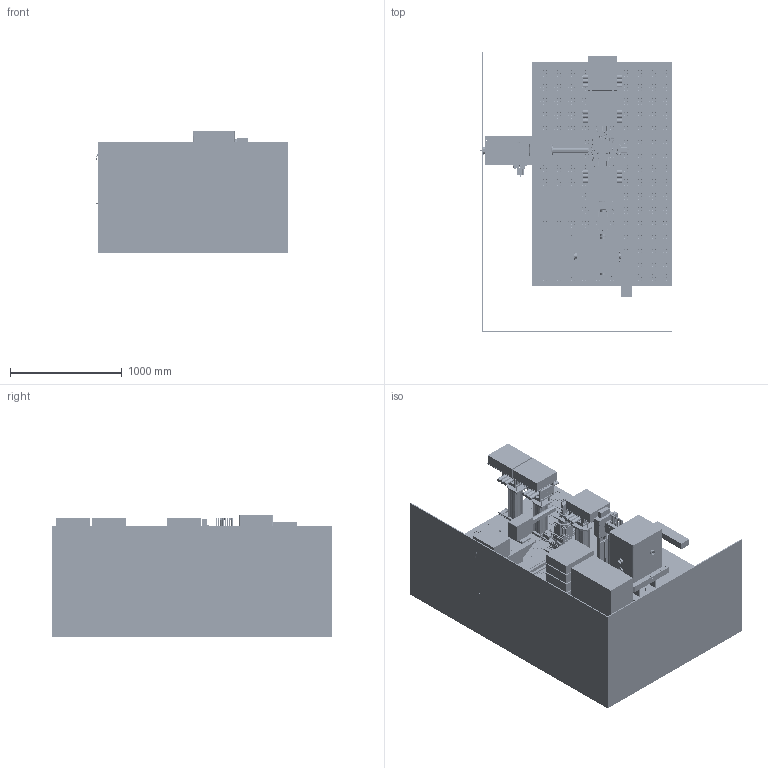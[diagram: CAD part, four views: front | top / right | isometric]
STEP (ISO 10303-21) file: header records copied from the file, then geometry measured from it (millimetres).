
FILE_DESCRIPTION(/* description */ ('','CAx-IF Rec.Pracs.---Representation and Presentation of Product Manufacturing Information (PMI)---4.0---2014-10-13'),/* implementation_level */ '2;1');
FILE_NAME(/* name */ 'M:\1_Infrastructure\1.03_Exp. hutch\1.03.018_Sample Manipulator\2_Drawings\X10DA_2.stp',/* time_stamp */ '2019-07-01T15:57:56+02:00',/* author */ ('hitz_s'),/* organization */ (''),/* preprocessor_version */ 'ST-DEVELOPER v17.2',/* originating_system */ 'Autodesk Inventor 2019',/* authorisation */ '');
FILE_SCHEMA (('AP242_MANAGED_MODEL_BASED_3D_ENGINEERING_MIM_LF { 1 0 10303 442 1 1 4 }'));
Products named in the file (1): X10DA_2
Bounding box: 1719.6 x 2500 x 1099 mm (x, y, z)
Volume: 753325831.2 mm3; surface area: 26816604.9 mm2
Topology: 1210 solids, 1210 shells, 1954 faces, 0 edges, 0 vertices
Faces by surface type: other 1954
Entity records: 6507 total; most frequent: STYLED_ITEM 1954, COMPLEX_TRIANGULATED_FACE 1954, TESSELLATED_SOLID 1210, COORDINATES_LIST 1210, PRESENTATION_STYLE_ASSIGNMENT 20, SURFACE_STYLE_USAGE 20, SURFACE_SIDE_STYLE 20, SURFACE_STYLE_FILL_AREA 20
